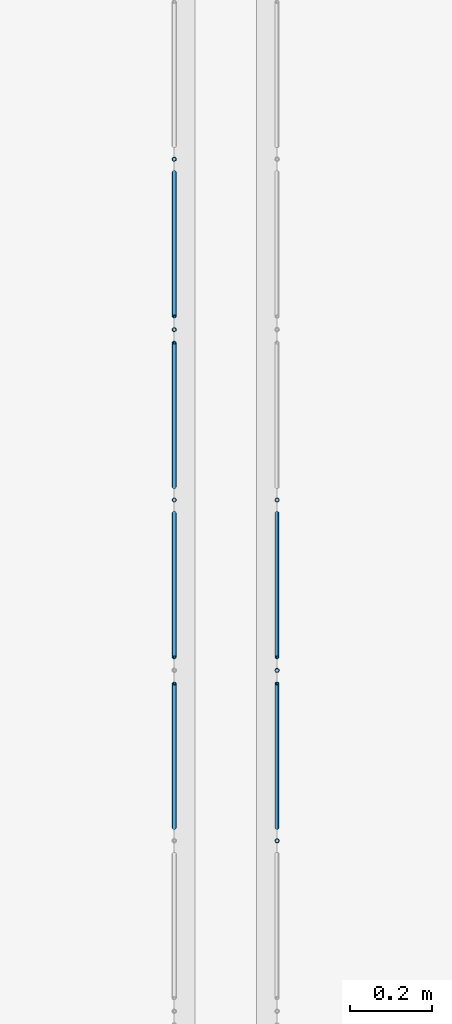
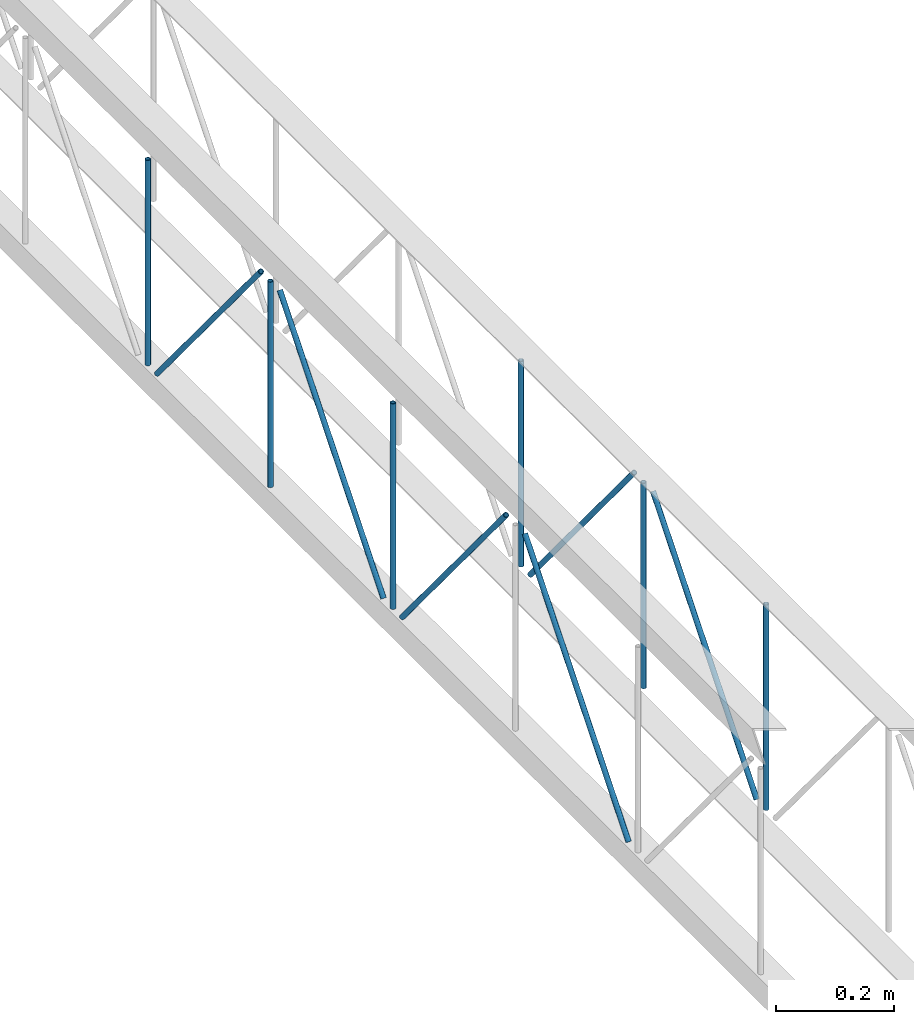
# One storey, part 90 of 153: 12 members, 2 elements without a shape of their own.
"""IFC4 building model written with IfcOpenShell, lengths in metres."""

from ifc_helpers import new_model, entity, si_unit, converted_unit, derived_unit, direction, frame, origin, place, context, subcontext, project, spatial, arc, indexed_curve, outline, extrude, source, transform, mapped, material, type_object, type_shapes, element, aggregate, save


model = new_model("IFC4")

# Units and contexts
model_context = context("Model", 3, precision=1e-05, world=origin(), true_north=direction((6.123031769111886e-17, 1.0)))
body_context = subcontext(model_context, "Body", "Model", "MODEL_VIEW")
ifc_project = project(units=[si_unit("LENGTHUNIT", "METRE"), si_unit("AREAUNIT", "SQUARE_METRE"), si_unit("VOLUMEUNIT", "CUBIC_METRE"), converted_unit("PLANEANGLEUNIT", "DEGREE", entity("IfcRatioMeasure", 0.017453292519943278), si_unit("PLANEANGLEUNIT", "RADIAN"), dimensions=[0, 0, 0, 0, 0, 0, 0]), si_unit("MASSUNIT", "GRAM", prefix="KILO"), derived_unit("MASSDENSITYUNIT", [(si_unit("MASSUNIT", "GRAM", prefix="KILO"), 1), (si_unit("LENGTHUNIT", "METRE"), -3)]), derived_unit("MOMENTOFINERTIAUNIT", [(si_unit("LENGTHUNIT", "METRE"), 4)]), si_unit("TIMEUNIT", "SECOND"), si_unit("FREQUENCYUNIT", "HERTZ"), si_unit("THERMODYNAMICTEMPERATUREUNIT", "DEGREE_CELSIUS"), derived_unit("THERMALTRANSMITTANCEUNIT", [(si_unit("MASSUNIT", "GRAM", prefix="KILO"), 1), (si_unit("THERMODYNAMICTEMPERATUREUNIT", "KELVIN"), -1), (si_unit("TIMEUNIT", "SECOND"), -3)]), derived_unit("VOLUMETRICFLOWRATEUNIT", [(si_unit("LENGTHUNIT", "METRE"), 3), (si_unit("TIMEUNIT", "SECOND"), -1)]), derived_unit("MASSFLOWRATEUNIT", [(si_unit("MASSUNIT", "GRAM", prefix="KILO"), 1), (si_unit("TIMEUNIT", "SECOND"), -1)]), derived_unit("ROTATIONALFREQUENCYUNIT", [(si_unit("TIMEUNIT", "SECOND"), -1)]), si_unit("ELECTRICCURRENTUNIT", "AMPERE"), si_unit("ELECTRICVOLTAGEUNIT", "VOLT"), si_unit("POWERUNIT", "WATT"), si_unit("FORCEUNIT", "NEWTON", prefix="KILO"), si_unit("ILLUMINANCEUNIT", "LUX"), si_unit("LUMINOUSFLUXUNIT", "LUMEN"), si_unit("LUMINOUSINTENSITYUNIT", "CANDELA"), derived_unit("USERDEFINED", [(si_unit("MASSUNIT", "GRAM", prefix="KILO"), -1), (si_unit("LENGTHUNIT", "METRE"), -2), (si_unit("TIMEUNIT", "SECOND"), 3), (si_unit("LUMINOUSFLUXUNIT", "LUMEN"), 1)]), derived_unit("SOUNDPOWERUNIT", [(si_unit("MASSUNIT", "GRAM", prefix="KILO"), 1), (si_unit("LENGTHUNIT", "METRE"), 2), (si_unit("TIMEUNIT", "SECOND"), -3)]), derived_unit("SOUNDPRESSUREUNIT", [(si_unit("MASSUNIT", "GRAM", prefix="KILO"), 1), (si_unit("LENGTHUNIT", "METRE"), -1), (si_unit("TIMEUNIT", "SECOND"), -2)]), derived_unit("LINEARVELOCITYUNIT", [(si_unit("LENGTHUNIT", "METRE"), 1), (si_unit("TIMEUNIT", "SECOND"), -1)]), si_unit("PRESSUREUNIT", "PASCAL"), derived_unit("USERDEFINED", [(si_unit("LENGTHUNIT", "METRE"), -2), (si_unit("MASSUNIT", "GRAM", prefix="KILO"), 1), (si_unit("TIMEUNIT", "SECOND"), -2)]), derived_unit("LINEARFORCEUNIT", [(si_unit("MASSUNIT", "GRAM", prefix="KILO"), 1), (si_unit("LENGTHUNIT", "METRE"), 1), (si_unit("TIMEUNIT", "SECOND"), -2), (si_unit("LENGTHUNIT", "METRE"), -1)]), derived_unit("PLANARFORCEUNIT", [(si_unit("MASSUNIT", "GRAM", prefix="KILO"), 1), (si_unit("LENGTHUNIT", "METRE"), 1), (si_unit("TIMEUNIT", "SECOND"), -2), (si_unit("LENGTHUNIT", "METRE"), -2)])], contexts=[model_context])

# Site, building, storey
site_placement = place(None, origin())
site = spatial("IfcSite", under=ifc_project, at=site_placement, Name="Superficie", CompositionType="ELEMENT")
building_placement = place(site_placement, origin())
building = spatial("IfcBuilding", under=site, at=building_placement, CompositionType="ELEMENT")
storey_placement = place(building_placement, frame((0.0, 0.0, 3.5999999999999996)))
storey = spatial("IfcBuildingStorey", under=building, at=storey_placement, Name="Nivel 1", CompositionType="ELEMENT", Elevation=3.5999999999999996)

# Assembly, members
assembly_1_placement = place(storey_placement, origin())
assembly_1 = element("IfcElementAssembly", 1, at=assembly_1_placement, inside=storey, Name="Viga de celosia 13:Viga de celosia 13", ObjectType="Viga de celosia 13:Viga de celosia 13", AssemblyPlace="NOTDEFINED", PredefinedType="TRUSS")
ifc_material = material(Name="Metal - Calibre delgado", Category="Metal")
member_type_1 = type_object("IfcMemberType", Name="HSS-Tubo estructural redondo:HSS 0.01", PredefinedType="BRACE", material=ifc_material)
shared_shape_1 = source(origin(), body_context, "Body", "SweptSolid", [
    extrude(outline(indexed_curve([(-0.005000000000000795, 7.502054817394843e-18), (-9.800269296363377e-18, -0.005000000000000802), (0.005000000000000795, -7.502054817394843e-18), (8.07772287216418e-18, 0.005000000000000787)], segments=[arc(1, 2, 3), arc(3, 4, 1)], self_intersect=False), holes=[indexed_curve([(0.003999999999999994, 7.222511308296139e-17), (6.910645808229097e-17, -0.004000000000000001), (-0.003999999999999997, -1.8650054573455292e-17), (-2.9156497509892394e-17, 0.003999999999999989)], segments=[arc(1, 2, 3), arc(3, 4, 1)], self_intersect=False)]), frame((-0.21200000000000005, 0.0, 0.0), z_axis=(1.0, 0.0, 0.0), x_axis=(0.0, 1.0, 0.0)), (0.0, 0.0, 1.0), 0.4240000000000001),
])
type_shapes(member_type_1, [shared_shape_1])
member_1_placement = place(assembly_1_placement, frame((15.836799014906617, -6.234029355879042, 0.24999999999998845), z_axis=(0.0, 1.0, 0.0), x_axis=(0.0, 0.0, 1.0)))
member_1 = element("IfcMember", 2, at=member_1_placement, type_object=member_type_1, material=ifc_material, Name="HSS-Tubo estructural redondo:HSS 0.01", ObjectType="HSS-Tubo estructural redondo:HSS 0.01", PredefinedType="BRACE", context=body_context, shape_type="MappedRepresentation", body=[
    mapped(shared_shape_1, transform((0.0, 0.0, 0.0), scale=1.0)),
])
member_2_placement = place(assembly_1_placement, frame((15.836799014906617, -5.8196832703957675, 0.25), z_axis=(0.0, 1.0, 0.0), x_axis=(0.0, 0.0, 1.0)))
member_2 = element("IfcMember", 3, at=member_2_placement, type_object=member_type_1, material=ifc_material, Name="HSS-Tubo estructural redondo:HSS 0.01", ObjectType="HSS-Tubo estructural redondo:HSS 0.01", PredefinedType="BRACE", context=body_context, shape_type="MappedRepresentation", body=[
    mapped(shared_shape_1, transform((0.0, 0.0, 0.0), scale=1.0)),
])
member_3_placement = place(assembly_1_placement, frame((15.83679901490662, -5.405337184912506, 0.25), z_axis=(0.0, 1.0, 0.0), x_axis=(0.0, 0.0, 1.0)))
member_3 = element("IfcMember", 4, at=member_3_placement, type_object=member_type_1, material=ifc_material, Name="HSS-Tubo estructural redondo:HSS 0.01", ObjectType="HSS-Tubo estructural redondo:HSS 0.01", PredefinedType="BRACE", context=body_context, shape_type="MappedRepresentation", body=[
    mapped(shared_shape_1, transform((0.0, 0.0, 0.0), scale=1.0)),
])
member_type_2 = type_object("IfcMemberType", Name="HSS-Tubo estructural redondo:HSS 0.01", PredefinedType="BRACE", material=ifc_material)
shared_shape_2 = source(origin(), body_context, "Body", "SweptSolid", [
    extrude(outline(indexed_curve([(-0.005000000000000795, 7.502054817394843e-18), (-9.800269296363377e-18, -0.005000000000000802), (0.005000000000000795, -7.502054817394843e-18), (8.07772287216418e-18, 0.005000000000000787)], segments=[arc(1, 2, 3), arc(3, 4, 1)], self_intersect=False), holes=[indexed_curve([(0.003999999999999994, 7.222511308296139e-17), (6.910645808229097e-17, -0.004000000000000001), (-0.003999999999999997, -1.8650054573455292e-17), (-2.9156497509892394e-17, 0.003999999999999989)], segments=[arc(1, 2, 3), arc(3, 4, 1)], self_intersect=False)]), frame((-0.275, 0.0, 0.0), z_axis=(1.0, 0.0, 0.0), x_axis=(0.0, 1.0, 0.0)), (0.0, 0.0, 1.0), 0.55),
])
type_shapes(member_type_2, [shared_shape_2])
member_4_placement = place(assembly_1_placement, frame((15.836799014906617, -6.85554848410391, 0.25000000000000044), z_axis=(0.0, 0.769975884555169, -0.638072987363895), x_axis=(0.0, 0.638072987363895, 0.769975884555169)))
member_4 = element("IfcMember", 5, at=member_4_placement, type_object=member_type_2, material=ifc_material, Name="HSS-Tubo estructural redondo:HSS 0.01", ObjectType="HSS-Tubo estructural redondo:HSS 0.01", PredefinedType="BRACE", context=body_context, shape_type="MappedRepresentation", body=[
    mapped(shared_shape_2, transform((0.0, 0.0, 0.0), scale=1.0)),
])
member_5_placement = place(assembly_1_placement, frame((15.836799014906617, -6.441202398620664, 0.25000000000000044), z_axis=(0.0, -0.7699758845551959, -0.6380729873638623), x_axis=(0.0, 0.6380729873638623, -0.7699758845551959)))
member_5 = element("IfcMember", 6, at=member_5_placement, type_object=member_type_2, material=ifc_material, Name="HSS-Tubo estructural redondo:HSS 0.01", ObjectType="HSS-Tubo estructural redondo:HSS 0.01", PredefinedType="BRACE", context=body_context, shape_type="MappedRepresentation", body=[
    mapped(shared_shape_2, transform((0.0, 0.0, 0.0), scale=1.0)),
])
member_6_placement = place(assembly_1_placement, frame((15.836799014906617, -6.026856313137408, 0.25), z_axis=(0.0, 0.7699758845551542, -0.6380729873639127), x_axis=(0.0, 0.6380729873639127, 0.7699758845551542)))
member_6 = element("IfcMember", 7, at=member_6_placement, type_object=member_type_2, material=ifc_material, Name="HSS-Tubo estructural redondo:HSS 0.01", ObjectType="HSS-Tubo estructural redondo:HSS 0.01", PredefinedType="BRACE", context=body_context, shape_type="MappedRepresentation", body=[
    mapped(shared_shape_2, transform((0.0, 0.0, 0.0), scale=1.0)),
])
member_7_placement = place(assembly_1_placement, frame((15.836799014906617, -5.612510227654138, 0.24999999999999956), z_axis=(0.0, -0.7699758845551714, -0.638072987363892), x_axis=(0.0, 0.638072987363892, -0.7699758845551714)))
member_7 = element("IfcMember", 8, at=member_7_placement, type_object=member_type_2, material=ifc_material, Name="HSS-Tubo estructural redondo:HSS 0.01", ObjectType="HSS-Tubo estructural redondo:HSS 0.01", PredefinedType="BRACE", context=body_context, shape_type="MappedRepresentation", body=[
    mapped(shared_shape_2, transform((0.0, 0.0, 0.0), scale=1.0)),
])
aggregate(assembly_1, [member_1, member_2, member_3, member_4, member_5, member_6, member_7])

assembly_2_placement = place(storey_placement, origin())
assembly_2 = element("IfcElementAssembly", 9, at=assembly_2_placement, inside=storey, Name="Viga de celosia 13:Viga de celosia 13", ObjectType="Viga de celosia 13:Viga de celosia 13", AssemblyPlace="NOTDEFINED", PredefinedType="TRUSS")
member_type_3 = type_object("IfcMemberType", Name="HSS-Tubo estructural redondo:HSS 0.01", PredefinedType="BRACE", material=ifc_material)
shared_shape_3 = source(origin(), body_context, "Body", "SweptSolid", [
    extrude(outline(indexed_curve([(-0.005000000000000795, 2.0824731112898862e-17), (-2.3122945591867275e-17, -0.005000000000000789), (0.005000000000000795, -2.08247311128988e-17), (2.14003991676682e-17, 0.005000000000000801)], segments=[arc(1, 2, 3), arc(3, 4, 1)], self_intersect=False), holes=[indexed_curve([(0.003999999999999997, -1.3094283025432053e-17), (-1.531427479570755e-18, -0.003999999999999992), (-0.004, 4.0098531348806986e-17), (4.1481388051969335e-17, 0.0039999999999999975)], segments=[arc(1, 2, 3), arc(3, 4, 1)], self_intersect=False)]), frame((-0.21200000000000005, 0.0, 0.0), z_axis=(1.0, 0.0, 0.0), x_axis=(0.0, -1.0, 0.0)), (0.0, 0.0, 1.0), 0.4240000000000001),
])
type_shapes(member_type_3, [shared_shape_3])
member_8_placement = place(assembly_2_placement, frame((16.086799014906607, -7.062721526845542, 0.25), z_axis=(0.0, 1.0, 0.0), x_axis=(0.0, 0.0, 1.0)))
member_8 = element("IfcMember", 10, at=member_8_placement, type_object=member_type_3, material=ifc_material, Name="HSS-Tubo estructural redondo:HSS 0.01", ObjectType="HSS-Tubo estructural redondo:HSS 0.01", PredefinedType="BRACE", context=body_context, shape_type="MappedRepresentation", body=[
    mapped(shared_shape_3, transform((0.0, 0.0, 0.0), scale=1.0)),
])
member_9_placement = place(assembly_2_placement, frame((16.086799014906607, -6.648375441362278, 0.25), z_axis=(0.0, 1.0, 0.0), x_axis=(0.0, 0.0, 1.0)))
member_9 = element("IfcMember", 11, at=member_9_placement, type_object=member_type_3, material=ifc_material, Name="HSS-Tubo estructural redondo:HSS 0.01", ObjectType="HSS-Tubo estructural redondo:HSS 0.01", PredefinedType="BRACE", context=body_context, shape_type="MappedRepresentation", body=[
    mapped(shared_shape_3, transform((0.0, 0.0, 0.0), scale=1.0)),
])
member_10_placement = place(assembly_2_placement, frame((16.086799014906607, -6.234029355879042, 0.24999999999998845), z_axis=(0.0, 1.0, 0.0), x_axis=(0.0, 0.0, 1.0)))
member_10 = element("IfcMember", 12, at=member_10_placement, type_object=member_type_3, material=ifc_material, Name="HSS-Tubo estructural redondo:HSS 0.01", ObjectType="HSS-Tubo estructural redondo:HSS 0.01", PredefinedType="BRACE", context=body_context, shape_type="MappedRepresentation", body=[
    mapped(shared_shape_3, transform((0.0, 0.0, 0.0), scale=1.0)),
])
member_type_4 = type_object("IfcMemberType", Name="HSS-Tubo estructural redondo:HSS 0.01", PredefinedType="BRACE", material=ifc_material)
shared_shape_4 = source(origin(), body_context, "Body", "SweptSolid", [
    extrude(outline(indexed_curve([(-0.005000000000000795, 2.0824731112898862e-17), (-2.3122945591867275e-17, -0.005000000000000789), (0.005000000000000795, -2.08247311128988e-17), (2.14003991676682e-17, 0.005000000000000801)], segments=[arc(1, 2, 3), arc(3, 4, 1)], self_intersect=False), holes=[indexed_curve([(0.003999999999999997, -1.3094283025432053e-17), (-1.531427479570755e-18, -0.003999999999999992), (-0.004, 4.0098531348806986e-17), (4.1481388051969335e-17, 0.0039999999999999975)], segments=[arc(1, 2, 3), arc(3, 4, 1)], self_intersect=False)]), frame((-0.275, 0.0, 0.0), z_axis=(1.0, 0.0, 0.0), x_axis=(0.0, -1.0, 0.0)), (0.0, 0.0, 1.0), 0.55),
])
type_shapes(member_type_4, [shared_shape_4])
member_11_placement = place(assembly_2_placement, frame((16.086799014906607, -6.85554848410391, 0.25000000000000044), z_axis=(0.0, 0.769975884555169, -0.638072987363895), x_axis=(0.0, 0.638072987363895, 0.769975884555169)))
member_11 = element("IfcMember", 13, at=member_11_placement, type_object=member_type_4, material=ifc_material, Name="HSS-Tubo estructural redondo:HSS 0.01", ObjectType="HSS-Tubo estructural redondo:HSS 0.01", PredefinedType="BRACE", context=body_context, shape_type="MappedRepresentation", body=[
    mapped(shared_shape_4, transform((0.0, 0.0, 0.0), scale=1.0)),
])
member_12_placement = place(assembly_2_placement, frame((16.086799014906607, -6.441202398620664, 0.25000000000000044), z_axis=(0.0, -0.7699758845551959, -0.6380729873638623), x_axis=(0.0, 0.6380729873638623, -0.7699758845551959)))
member_12 = element("IfcMember", 14, at=member_12_placement, type_object=member_type_4, material=ifc_material, Name="HSS-Tubo estructural redondo:HSS 0.01", ObjectType="HSS-Tubo estructural redondo:HSS 0.01", PredefinedType="BRACE", context=body_context, shape_type="MappedRepresentation", body=[
    mapped(shared_shape_4, transform((0.0, 0.0, 0.0), scale=1.0)),
])
aggregate(assembly_2, [member_8, member_9, member_10, member_11, member_12])

save(model, "model.ifc")
